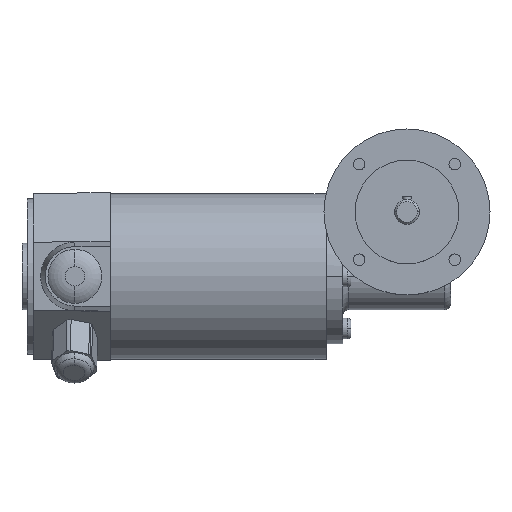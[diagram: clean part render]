
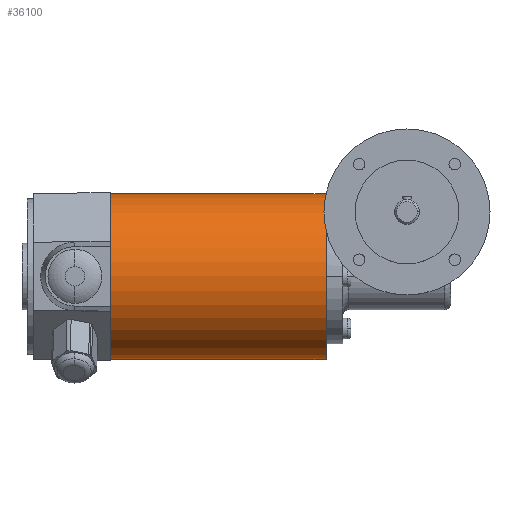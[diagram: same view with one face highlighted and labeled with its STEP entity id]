
A CAD part, top view. The second image highlights one B-rep face of the part: STEP entity #36100.
In plain terms, the highlighted cylindrical face has radius 40 mm (diameter 80 mm), a partial arc.
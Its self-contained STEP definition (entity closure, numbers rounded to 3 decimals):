
#9650=CARTESIAN_POINT('',(-51.325,455.,
-0.185));
#9660=DIRECTION('',(-0.026,0.,
1.));
#9670=DIRECTION('',(1.,0.,
0.026));
#9680=AXIS2_PLACEMENT_3D('',#9650,#9660,#9670);
#9690=CIRCLE('',#9680,40.);
#9700=CARTESIAN_POINT('',(-11.339,455.,
0.862));
#9710=VERTEX_POINT('',#9700);
#9720=CARTESIAN_POINT('',(-91.312,455.,
-1.232));
#9730=VERTEX_POINT('',#9720);
#9760=EDGE_CURVE('',#9730,#9710,#9690,.T.);
#33450=CARTESIAN_POINT('',(-48.603,455.,
-104.15));
#33460=DIRECTION('',(-0.026,0.,
1.));
#33470=DIRECTION('',(1.,0.,
0.026));
#33480=AXIS2_PLACEMENT_3D('',#33450,#33460,#33470);
#33490=CIRCLE('',#33480,40.);
#33500=CARTESIAN_POINT('',(-8.617,455.,
-103.102));
#33510=VERTEX_POINT('',#33500);
#33520=CARTESIAN_POINT('',(-88.589,455.,
-105.197));
#33530=VERTEX_POINT('',#33520);
#33560=EDGE_CURVE('',#33530,#33510,#33490,.T.);
#35890=CARTESIAN_POINT('',(-48.603,455.,
-104.15));
#35900=DIRECTION('',(-0.026,0.,
1.));
#35910=DIRECTION('',(1.,0.,
0.026));
#35920=AXIS2_PLACEMENT_3D('',#35890,#35900,#35910);
#35930=CYLINDRICAL_SURFACE('',#35920,40.);
#35940=CARTESIAN_POINT('',(-8.617,455.,
-103.102));
#35950=DIRECTION('',(-0.026,0.,
1.));
#35960=VECTOR('',#35950,1.);
#35970=LINE('',#35940,#35960);
#35980=EDGE_CURVE('',#33510,#9710,#35970,.T.);
#35990=ORIENTED_EDGE('',*,*,#35980,.T.);
#36000=ORIENTED_EDGE('',*,*,#33560,.T.);
#36010=CARTESIAN_POINT('',(-88.589,455.,
-105.197));
#36020=DIRECTION('',(-0.026,0.,
1.));
#36030=VECTOR('',#36020,1.);
#36040=LINE('',#36010,#36030);
#36050=EDGE_CURVE('',#33530,#9730,#36040,.T.);
#36060=ORIENTED_EDGE('',*,*,#36050,.F.);
#36070=ORIENTED_EDGE('',*,*,#9760,.F.);
#36080=EDGE_LOOP('',(#36070,#36060,#36000,#35990));
#36090=FACE_OUTER_BOUND('',#36080,.T.);
#36100=ADVANCED_FACE('',(#36090),#35930,.T.);
